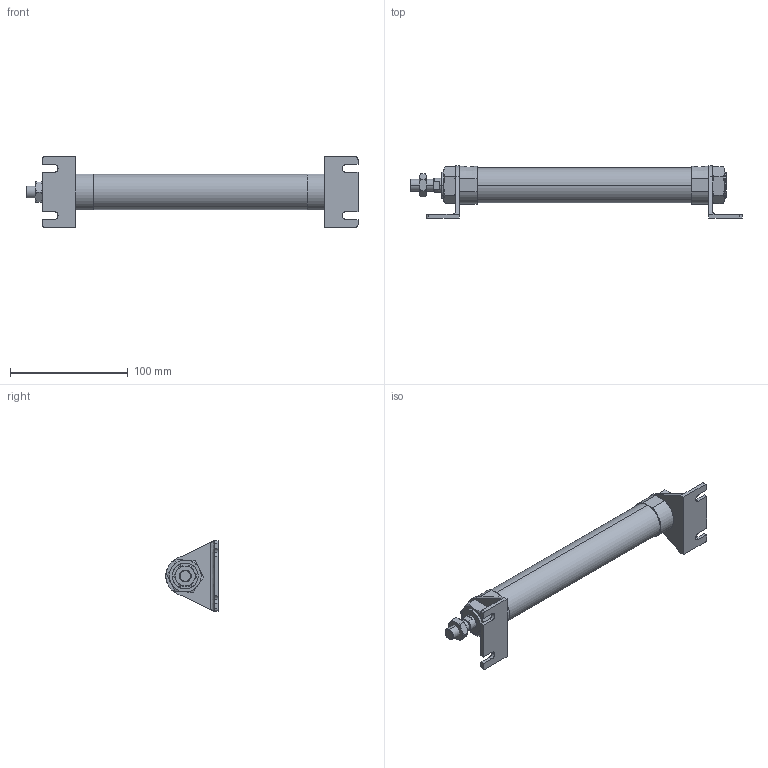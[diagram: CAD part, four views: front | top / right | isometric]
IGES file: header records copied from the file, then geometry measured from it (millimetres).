
Start section: SolidWorks IGES file using analytic representation for surfaces
Global section: file name: C:\Users\Toshiba\Desktop\J#2-25-150-L.IGS; native system: SolidWorks 2014; preprocessor: SolidWorks 2014; author: Toshiba; date: 160310.085545; units: millimetre
Bounding box: 282.2 x 44.5 x 60 mm (x, y, z)
Surface area: 44217.2 mm2 (no closed solid volume)
Topology: 0 solids, 0 shells, 171 faces, 2800 edges, 2796 vertices
Faces by surface type: bspline 111, revolution 60
